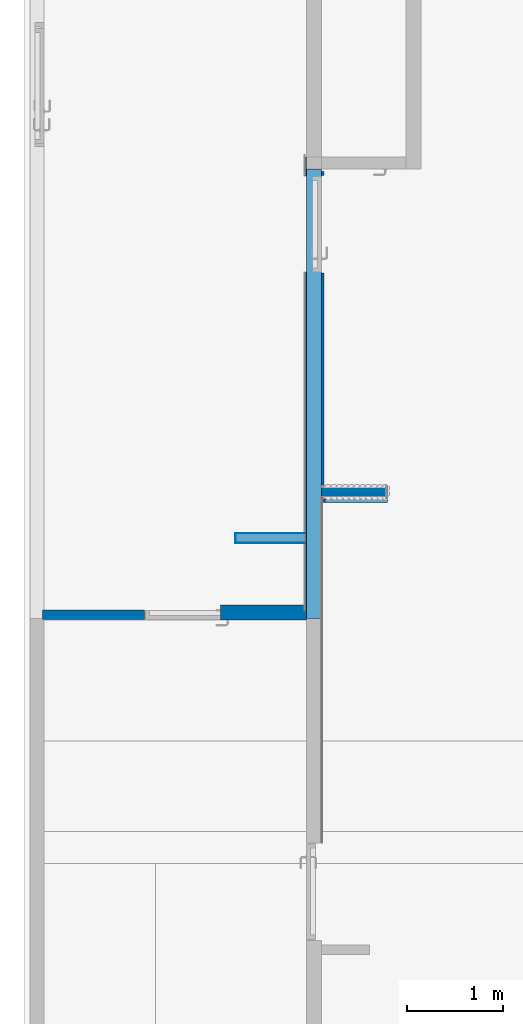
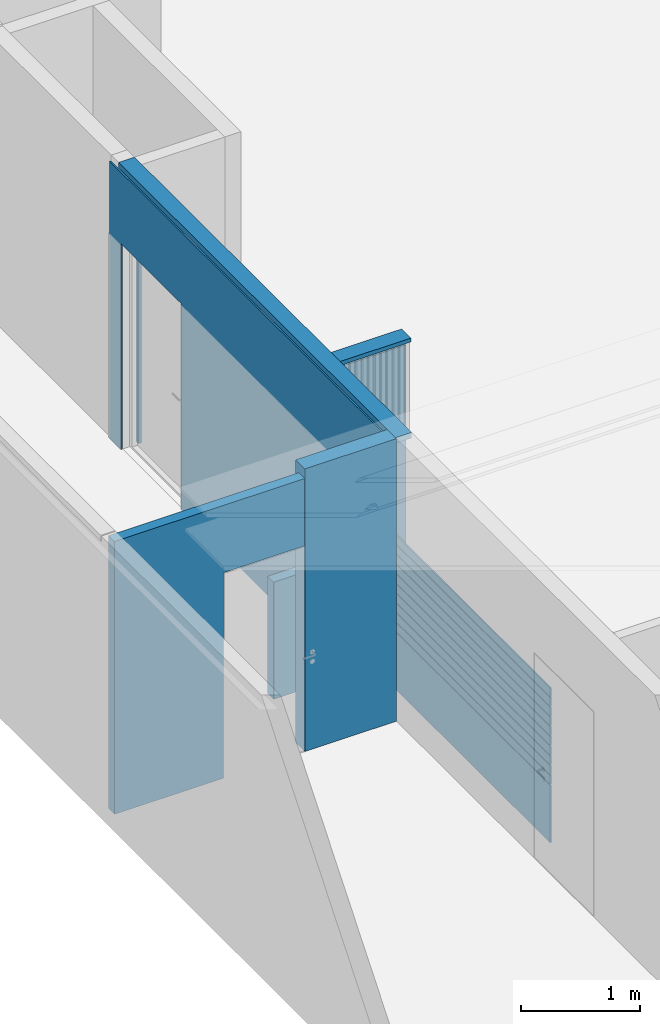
# One storey, part 23 of 37: 12 walls, 4 openings.
"""IFC2X3 building model written with IfcOpenShell, lengths in millimetres."""

from ifc_helpers import new_model, entity, si_unit, converted_unit, derived_unit, direction, frame, frame_2d, origin, origin_with_axes, place, context, subcontext, project, spatial, rectangle, extrude, clip, halfspace, material, layer, layer_set, layer_usage, type_object, element, save


model = new_model("IFC2X3")

# Units and contexts
model_context = context("Model", 3, precision=0.01, world=frame((0.0, 4.29681676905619e-09, 0.0)), true_north=direction((4.01073788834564e-13, 1.0)))
plan_context = context("Plan", 3, precision=0.01, world=frame((0.0, 4.29681676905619e-09, 0.0)), true_north=direction((4.01073788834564e-13, 1.0)))
body_context = subcontext(model_context, "Body", "Model", "MODEL_VIEW")
ifc_project = project(units=[converted_unit("PLANEANGLEUNIT", "DEGREE", entity("IfcPositiveLengthMeasure", 0.0174532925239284), si_unit("PLANEANGLEUNIT", "RADIAN"), dimensions=[0, 0, 0, 0, 0, 0, 0]), si_unit("AREAUNIT", "SQUARE_METRE"), si_unit("LENGTHUNIT", "METRE", prefix="MILLI"), si_unit("MASSUNIT", "GRAM", prefix="KILO"), si_unit("POWERUNIT", "WATT"), si_unit("PRESSUREUNIT", "PASCAL"), si_unit("FORCEUNIT", "NEWTON", prefix="KILO"), si_unit("ELECTRICVOLTAGEUNIT", "VOLT"), si_unit("ELECTRICCURRENTUNIT", "AMPERE"), si_unit("THERMODYNAMICTEMPERATUREUNIT", "DEGREE_CELSIUS"), si_unit("TIMEUNIT", "SECOND"), si_unit("VOLUMEUNIT", "CUBIC_METRE"), derived_unit("LINEARVELOCITYUNIT", [(si_unit("LENGTHUNIT", "METRE"), 1), (si_unit("TIMEUNIT", "SECOND"), -1)]), derived_unit("VOLUMETRICFLOWRATEUNIT", [(si_unit("VOLUMEUNIT", "CUBIC_METRE"), 1), (si_unit("TIMEUNIT", "SECOND"), -1)]), derived_unit("THERMALTRANSMITTANCEUNIT", [(si_unit("POWERUNIT", "WATT"), 1), (si_unit("THERMODYNAMICTEMPERATUREUNIT", "KELVIN"), -1), (si_unit("AREAUNIT", "SQUARE_METRE"), -1)]), derived_unit("SOUNDPRESSUREUNIT", [(si_unit("PRESSUREUNIT", "PASCAL"), 1)])], contexts=[model_context, plan_context])

# Site, building, storey
site_placement = place(None, origin_with_axes())
site = spatial("IfcSite", under=ifc_project, at=site_placement, Name="ENGM", CompositionType="ELEMENT")
building_placement = place(site_placement, origin_with_axes())
building = spatial("IfcBuilding", under=site, at=building_placement, Name="TS", CompositionType="ELEMENT")
storey_placement = place(building_placement, frame((0.0, 0.0, 210900.0), z_axis=(0.0, 0.0, 1.0), x_axis=(1.0, 0.0, 0.0)))
storey = spatial("IfcBuildingStorey", under=building, at=storey_placement, Name="Nivå F", CompositionType="ELEMENT", Elevation=210900.0)

# Wall, opening
ifc_material_1 = material(Name="Plate - Gips")
ifc_layer_1 = layer(ifc_material_1, 12.5)
ifc_material_2 = material(Name="_NSW X-finer")
ifc_layer_2 = layer(ifc_material_2, 15.0)
ifc_material_3 = material(Name="_NSW Stålstender, isolert UTEN SKRAVUR")
ifc_layer_3 = layer(ifc_material_3, 100.0)
ifc_layer_4 = layer(ifc_material_2, 15.0)
ifc_layer_5 = layer(ifc_material_1, 12.5)
ifc_layer_set_1 = layer_set([ifc_layer_1, ifc_layer_2, ifc_layer_3, ifc_layer_4, ifc_layer_5], Name="Basic Wall:A241 - SXVXS-100")
ifc_layer_usage_1 = layer_usage(ifc_layer_set_1, "AXIS2", "NEGATIVE", 77.5)
wall_type_1 = type_object("IfcWallType", Name="Basic Wall:A241 - SXVXS-100", PredefinedType="STANDARD", material=ifc_layer_set_1)
wall_1_placement = place(storey_placement, frame((523534.500000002, 451909.999999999, 0.0), z_axis=(0.0, 0.0, 1.0), x_axis=(1.0, 0.0, 0.0)))
wall_1 = element("IfcWallStandardCase", 1, at=wall_1_placement, inside=storey, type_object=wall_type_1, material=ifc_layer_usage_1, Name="Basic Wall:A241 - SXVXS-100", ObjectType="Basic Wall:A241 - SXVXS-100", context=body_context, shape_type="SweptSolid", body=[
    extrude(rectangle(XDim=685.000000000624, YDim=155.000000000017, at=frame_2d((342.500000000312, 0.0), x_axis=(-1.0, 0.0))), origin(), (0.0, 0.0, 1.0), 2899.99999999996),
])
opening_1_placement = place(wall_1_placement, origin_with_axes())
element("IfcOpeningElement", 2, at=opening_1_placement, cuts=wall_1, Name="Basic Wall:A241 - SXVXS-100", ObjectType="Opening", context=body_context, shape_type="SweptSolid", body=[
    extrude(rectangle(XDim=2760.0, YDim=644.99999999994, at=frame_2d((-3.46744855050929e-11, -6.9292127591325e-11), x_axis=(1.0, 0.0))), frame((362.500000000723, -229.900000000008, 1480.0), z_axis=(0.0, 1.0, 0.0), x_axis=(0.0, 0.0, 1.0)), (0.0, 0.0, 1.0), 459.800000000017),
])

# Walls
ifc_layer_usage_2 = layer_usage(ifc_layer_set_1, "AXIS2", "NEGATIVE", 77.5)
wall_2_placement = place(storey_placement, frame((522489.500000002, 450695.000000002, 0.0), z_axis=(0.0, 0.0, 1.0), x_axis=(1.0, 0.0, 0.0)))
element("IfcWallStandardCase", 3, at=wall_2_placement, inside=storey, type_object=wall_type_1, material=ifc_layer_usage_2, Name="Basic Wall:A241 - SXVXS-100", ObjectType="Basic Wall:A241 - SXVXS-100", context=body_context, shape_type="SweptSolid", body=[
    extrude(rectangle(XDim=889.999999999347, YDim=155.000000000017, at=frame_2d((444.999999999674, 0.0), x_axis=(-1.0, 0.0))), origin(), (0.0, 0.0, 1.0), 2899.99999999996),
])
ifc_layer_usage_3 = layer_usage(ifc_layer_set_1, "AXIS2", "NEGATIVE", 77.5)
wall_3_placement = place(storey_placement, frame((523457.000000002, 450632.558241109, 2843.0), z_axis=(0.0, 0.0, 1.0), x_axis=(0.0, 1.0, 0.0)))
element("IfcWallStandardCase", 4, at=wall_3_placement, inside=storey, type_object=wall_type_1, material=ifc_layer_usage_3, Name="Basic Wall:A241 - SXVXS-100", ObjectType="Basic Wall:A241 - SXVXS-100", context=body_context, shape_type="SweptSolid", body=[
    extrude(rectangle(XDim=4658.28227886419, YDim=155.000000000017, at=frame_2d((2329.14113943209, 0.0), x_axis=(-1.0, 0.0))), origin(), (0.0, 0.0, 1.0), 57.0000000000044),
])

# Wall, opening
ifc_layer_6 = layer(ifc_material_1, 12.5)
ifc_material_4 = material(Name="_NSW Stålstender, uisolert")
ifc_layer_7 = layer(ifc_material_4, 75.0)
ifc_layer_8 = layer(ifc_material_1, 12.5)
ifc_layer_set_2 = layer_set([ifc_layer_6, ifc_layer_7, ifc_layer_8], Name="Basic Wall:A241 - RVR-75.1")
ifc_layer_usage_4 = layer_usage(ifc_layer_set_2, "AXIS2", "NEGATIVE", 50.0)
wall_type_2 = type_object("IfcWallType", Name="Basic Wall:A241 - RVR-75.1", PredefinedType="STANDARD", material=ifc_layer_set_2)
wall_4_placement = place(storey_placement, frame((520643.500000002, 450670.058241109, 0.0), z_axis=(0.0, 0.0, 1.0), x_axis=(1.0, 0.0, 0.0)))
wall_4 = element("IfcWallStandardCase", 5, at=wall_4_placement, inside=storey, type_object=wall_type_2, material=ifc_layer_usage_4, Name="Basic Wall:A241 - RVR-75.1", ObjectType="Basic Wall:A241 - RVR-75.1", context=body_context, shape_type="Clipping", body=[
    clip(extrude(rectangle(XDim=2736.0, YDim=99.9999999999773, at=frame_2d((1368.0, 3.46531692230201e-11), x_axis=(1.0, 0.0))), origin(), (0.0, 0.0, 1.0), 2799.99999999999), halfspace(origin(), True)),
])
opening_2_placement = place(wall_4_placement, frame((2066.0, 50.0, 0.0), z_axis=(0.0, 0.0, 1.0), x_axis=(1.0, 0.0, 0.0)))
element("IfcOpeningElement", 6, at=opening_2_placement, cuts=wall_4, Name="A20 - Slagdør - Enkel:A243 - DI_LTO - 0990 x 2090mm:1", ObjectType="Opening", context=body_context, shape_type="SweptSolid", body=[
    extrude(rectangle(XDim=2109.99999999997, YDim=1010.0, at=frame_2d((1054.99999999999, 505.0), x_axis=(1.0, 0.0))), frame((0.0, 0.0, 0.0), z_axis=(0.0, -1.0, 0.0), x_axis=(0.0, 0.0, 1.0)), (0.0, 0.0, 1.0), 100.0),
])

# Walls
ifc_layer_usage_5 = layer_usage(ifc_layer_set_2, "AXIS2", "NEGATIVE", 50.0)
wall_5_placement = place(storey_placement, frame((522646.770806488, 451464.529120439, 0.0), z_axis=(0.0, 0.0, 1.0), x_axis=(1.0, 0.0, 0.0)))
element("IfcWallStandardCase", 7, at=wall_5_placement, inside=storey, type_object=wall_type_2, material=ifc_layer_usage_5, Name="Basic Wall:A241 - RVR-75.1", ObjectType="Basic Wall:A241 - RVR-75.1", context=body_context, shape_type="SweptSolid", body=[
    extrude(rectangle(XDim=732.729193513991, YDim=99.9999999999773, at=frame_2d((366.364596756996, 3.26458859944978e-11), x_axis=(-1.0, 0.0))), origin(), (0.0, 0.0, 1.0), 1200.0),
])
ifc_layer_9 = layer(ifc_material_1, 12.5)
ifc_layer_10 = layer(ifc_material_4, 75.0)
ifc_layer_11 = layer(ifc_material_1, 12.5)
ifc_layer_set_3 = layer_set([ifc_layer_9, ifc_layer_10, ifc_layer_11], Name="Basic Wall:A241 - RVR-75.2")
ifc_layer_usage_6 = layer_usage(ifc_layer_set_3, "AXIS2", "NEGATIVE", 50.0)
wall_type_3 = type_object("IfcWallType", Name="Basic Wall:A241 - RVR-75.2", PredefinedType="STANDARD", material=ifc_layer_set_3)
wall_6_placement = place(storey_placement, frame((523534.500000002, 451939.919299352, 0.0), z_axis=(0.0, 0.0, 1.0), x_axis=(1.0, 0.0, 0.0)))
element("IfcWallStandardCase", 8, at=wall_6_placement, inside=storey, type_object=wall_type_3, material=ifc_layer_usage_6, Name="Basic Wall:A241 - RVR-75.2", ObjectType="Basic Wall:A241 - RVR-75.2", context=body_context, shape_type="Clipping", body=[
    clip(extrude(rectangle(XDim=673.000000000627, YDim=99.9999999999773, at=frame_2d((336.500000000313, 3.46531692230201e-11), x_axis=(-1.0, 0.0))), origin(), (0.0, 0.0, 1.0), 2799.99999999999), halfspace(origin(), True)),
])

# Wall, opening
ifc_material_5 = material(Name="T2 - Flisvegg Tegl 260x65")
ifc_layer_12 = layer(ifc_material_5, 20.0)
ifc_material_6 = material(Name="T2_Mørtel")
ifc_layer_13 = layer(ifc_material_6, 7.0)
ifc_layer_set_4 = layer_set([ifc_layer_12, ifc_layer_13], Name="Basic Wall:A231 - KL-K04 Tegl Flis 20mm")
ifc_layer_usage_7 = layer_usage(ifc_layer_set_4, "AXIS2", "NEGATIVE", 13.5)
wall_type_4 = type_object("IfcWallType", Name="Basic Wall:A231 - KL-K04 Tegl Flis 20mm", PredefinedType="STANDARD", material=ifc_layer_set_4)
wall_7_placement = place(storey_placement, frame((523548.000000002, 455263.840519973, 0.0), z_axis=(0.0, 0.0, 1.0), x_axis=(0.0, -1.0, 0.0)))
wall_7 = element("IfcWallStandardCase", 9, at=wall_7_placement, inside=storey, type_object=wall_type_4, material=ifc_layer_usage_7, Name="Basic Wall:A231 - KL-K04 Tegl Flis 20mm", ObjectType="Basic Wall:A231 - KL-K04 Tegl Flis 20mm", context=body_context, shape_type="SweptSolid", body=[
    extrude(rectangle(XDim=3273.92122062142, YDim=26.9999999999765, at=frame_2d((1636.96061031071, 3.46522810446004e-11), x_axis=(1.0, 0.0))), origin(), (0.0, 0.0, 1.0), 2240.00000000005),
])
opening_3_placement = place(wall_7_placement, origin_with_axes())
element("IfcOpeningElement", 10, at=opening_3_placement, cuts=wall_7, Name="Basic Wall:A231 - KL-K04 Tegl Flis 20mm", ObjectType="Opening", context=body_context, shape_type="SweptSolid", body=[
    extrude(rectangle(XDim=2109.99999999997, YDim=1010.00000000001, at=frame_2d((0.0, 3.46744855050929e-11), x_axis=(1.0, 0.0))), frame((545.0, -1692.49999999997, 1055.0), z_axis=(0.0, 1.0, 0.0), x_axis=(0.0, 0.0, 1.0)), (0.0, 0.0, 1.0), 3048.0),
])

# Walls
ifc_material_7 = material(Name="T2_baderomspanel")
ifc_layer_14 = layer(ifc_material_7, 2.5)
ifc_layer_set_5 = layer_set([ifc_layer_14], Name="Basic Wall:A231 - KL-K06")
ifc_layer_usage_8 = layer_usage(ifc_layer_set_5, "AXIS2", "NEGATIVE", 1.25)
wall_type_5 = type_object("IfcWallType", Name="Basic Wall:A231 - KL-K06", PredefinedType="STANDARD", material=ifc_layer_set_5)
wall_8_placement = place(storey_placement, frame((523362.000000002, 451515.779120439, 0.0), z_axis=(0.0, 0.0, 1.0), x_axis=(-1.0, 0.0, 0.0)))
element("IfcWallStandardCase", 11, at=wall_8_placement, inside=storey, type_object=wall_type_5, material=ifc_layer_usage_8, Name="Basic Wall:A231 - KL-K06", ObjectType="Basic Wall:A231 - KL-K06", context=body_context, shape_type="SweptSolid", body=[
    extrude(rectangle(XDim=717.729193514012, YDim=2.49999999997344, at=frame_2d((358.864596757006, 0.0), x_axis=(-1.0, 0.0))), origin(), (0.0, 0.0, 1.0), 1200.0),
])
ifc_layer_usage_9 = layer_usage(ifc_layer_set_5, "AXIS2", "NEGATIVE", 1.25)
wall_9_placement = place(storey_placement, frame((522645.520806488, 451514.529120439, 0.0), z_axis=(0.0, 0.0, 1.0), x_axis=(0.0, -1.0, 0.0)))
element("IfcWallStandardCase", 12, at=wall_9_placement, inside=storey, type_object=wall_type_5, material=ifc_layer_usage_9, Name="Basic Wall:A231 - KL-K06", ObjectType="Basic Wall:A231 - KL-K06", context=body_context, shape_type="SweptSolid", body=[
    extrude(rectangle(XDim=102.500000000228, YDim=2.49999999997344, at=frame_2d((51.250000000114, 0.0), x_axis=(-1.0, 0.0))), origin(), (0.0, 0.0, 1.0), 1200.0),
])
ifc_layer_usage_10 = layer_usage(ifc_layer_set_5, "AXIS2", "NEGATIVE", 1.25)
wall_10_placement = place(storey_placement, frame((522646.770806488, 451413.279120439, 0.0), z_axis=(0.0, 0.0, 1.0), x_axis=(1.0, 0.0, 0.0)))
element("IfcWallStandardCase", 13, at=wall_10_placement, inside=storey, type_object=wall_type_5, material=ifc_layer_usage_10, Name="Basic Wall:A231 - KL-K06", ObjectType="Basic Wall:A231 - KL-K06", context=body_context, shape_type="SweptSolid", body=[
    extrude(rectangle(XDim=717.729193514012, YDim=2.49999999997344, at=frame_2d((358.864596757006, 0.0), x_axis=(-1.0, 0.0))), origin(), (0.0, 0.0, 1.0), 1200.0),
])
ifc_material_8 = material(Name="MDF plate grå")
ifc_layer_15 = layer(ifc_material_8, 12.0)
ifc_layer_set_6 = layer_set([ifc_layer_15], Name="Basic Wall:A231 - KL-K08")
wall_type_6 = type_object("IfcWallType", Name="Basic Wall:A231 - KL-K08", PredefinedType="STANDARD", material=ifc_layer_set_6)
wall_11_placement = place(storey_placement, frame((523540.500000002, 448304.500000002, 100.0), z_axis=(0.0, 0.0, 1.0), x_axis=(0.0, 1.0, 0.0)))
element("IfcWall", 14, at=wall_11_placement, inside=storey, type_object=wall_type_6, Name="Basic Wall:A231 - KL-K08", ObjectType="Basic Wall:A231 - KL-K08", context=body_context, shape_type="SweptSolid", body=[
    extrude(rectangle(XDim=11.9999999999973, YDim=3585.41929934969, at=frame_2d((-3.46518369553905e-11, 0.0), x_axis=(1.0, 0.0))), frame((1792.70964967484, 0.0, 0.0), z_axis=(0.0, 0.0, 1.0), x_axis=(0.0, 1.0, 0.0)), (0.0, 0.0, 1.0), 589.999999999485),
    extrude(rectangle(XDim=11.9999999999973, YDim=3585.41929934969, at=frame_2d((-3.46518369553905e-11, 0.0), x_axis=(1.0, 0.0))), frame((1792.70964967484, 0.0, 1500.0), z_axis=(0.0, 0.0, 1.0), x_axis=(0.0, 1.0, 0.0)), (0.0, 0.0, 1.0), 90.0000000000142),
    extrude(rectangle(XDim=11.9999999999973, YDim=3585.41929934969, at=frame_2d((-3.46518369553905e-11, 0.0), x_axis=(1.0, 0.0))), frame((1792.70964967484, 0.0, 600.0), z_axis=(0.0, 0.0, 1.0), x_axis=(0.0, 1.0, 0.0)), (0.0, 0.0, 1.0), 90.0000000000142),
    extrude(rectangle(XDim=11.9999999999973, YDim=3585.41929934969, at=frame_2d((-3.46518369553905e-11, 0.0), x_axis=(1.0, 0.0))), frame((1792.70964967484, 0.0, 700.0), z_axis=(0.0, 0.0, 1.0), x_axis=(0.0, 1.0, 0.0)), (0.0, 0.0, 1.0), 89.9999999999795),
    extrude(rectangle(XDim=11.9999999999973, YDim=3585.41929934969, at=frame_2d((-3.46518369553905e-11, 0.0), x_axis=(1.0, 0.0))), frame((1792.70964967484, 0.0, 800.0), z_axis=(0.0, 0.0, 1.0), x_axis=(0.0, 1.0, 0.0)), (0.0, 0.0, 1.0), 90.0000000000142),
    extrude(rectangle(XDim=11.9999999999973, YDim=3585.41929934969, at=frame_2d((-3.46518369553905e-11, 0.0), x_axis=(1.0, 0.0))), frame((1792.70964967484, 0.0, 900.0), z_axis=(0.0, 0.0, 1.0), x_axis=(0.0, 1.0, 0.0)), (0.0, 0.0, 1.0), 90.0000000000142),
    extrude(rectangle(XDim=11.9999999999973, YDim=3585.41929934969, at=frame_2d((-3.46518369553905e-11, 0.0), x_axis=(1.0, 0.0))), frame((1792.70964967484, 0.0, 1000.0), z_axis=(0.0, 0.0, 1.0), x_axis=(0.0, 1.0, 0.0)), (0.0, 0.0, 1.0), 89.9999999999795),
    extrude(rectangle(XDim=11.9999999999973, YDim=3585.41929934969, at=frame_2d((-3.46518369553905e-11, 0.0), x_axis=(1.0, 0.0))), frame((1792.70964967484, 0.0, 1100.0), z_axis=(0.0, 0.0, 1.0), x_axis=(0.0, 1.0, 0.0)), (0.0, 0.0, 1.0), 90.0000000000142),
    extrude(rectangle(XDim=11.9999999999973, YDim=3585.41929934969, at=frame_2d((-3.46518369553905e-11, 0.0), x_axis=(1.0, 0.0))), frame((1792.70964967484, 0.0, 1200.0), z_axis=(0.0, 0.0, 1.0), x_axis=(0.0, 1.0, 0.0)), (0.0, 0.0, 1.0), 90.0000000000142),
    extrude(rectangle(XDim=11.9999999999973, YDim=3585.41929934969, at=frame_2d((-3.46518369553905e-11, 0.0), x_axis=(1.0, 0.0))), frame((1792.70964967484, 0.0, 1300.0), z_axis=(0.0, 0.0, 1.0), x_axis=(0.0, 1.0, 0.0)), (0.0, 0.0, 1.0), 89.9999999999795),
    extrude(rectangle(XDim=11.9999999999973, YDim=3585.41929934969, at=frame_2d((-3.46518369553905e-11, 0.0), x_axis=(1.0, 0.0))), frame((1792.70964967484, 0.0, 1400.0), z_axis=(0.0, 0.0, 1.0), x_axis=(0.0, 1.0, 0.0)), (0.0, 0.0, 1.0), 90.0000000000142),
])

# Wall, opening
ifc_material_9 = material(Name="T2_Gips Protect F")
ifc_layer_16 = layer(ifc_material_9, 15.0)
ifc_layer_set_7 = layer_set([ifc_layer_16], Name="Basic Wall:A200 - Branngips 15 mm")
ifc_layer_usage_11 = layer_usage(ifc_layer_set_7, "AXIS2", "NEGATIVE", 7.5)
wall_type_7 = type_object("IfcWallType", Name="Basic Wall:A200 - Branngips 15 mm", PredefinedType="STANDARD", material=ifc_layer_set_7)
wall_12_placement = place(storey_placement, frame((523372.110632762, 450720.058241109, 0.0), z_axis=(0.0, 0.0, 1.0), x_axis=(0.0, 1.0, 0.0)))
wall_12 = element("IfcWallStandardCase", 15, at=wall_12_placement, inside=storey, type_object=wall_type_7, material=ifc_layer_usage_11, Name="Basic Wall:A200 - Branngips 15 mm", ObjectType="Basic Wall:A200 - Branngips 15 mm", context=body_context, shape_type="SweptSolid", body=[
    extrude(rectangle(XDim=4694.78227886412, YDim=14.9999999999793, at=frame_2d((2347.39113943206, 0.0), x_axis=(1.0, 0.0))), origin(), (0.0, 0.0, 1.0), 2842.00000000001),
])
opening_4_placement = place(wall_12_placement, origin_with_axes())
element("IfcOpeningElement", 16, at=opening_4_placement, cuts=wall_12, Name="Basic Wall:A200 - Branngips 15 mm", ObjectType="Opening", context=body_context, shape_type="SweptSolid", body=[
    extrude(rectangle(XDim=2109.99999999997, YDim=1009.99999999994, at=frame_2d((0.0, 0.0), x_axis=(0.0, 1.0))), frame((3998.78227886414, -1531.38936723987, 1055.0), z_axis=(0.0, 1.0, 0.0), x_axis=(-1.0, 0.0, 0.0)), (0.0, 0.0, 1.0), 3048.0),
])

save(model, "model.ifc")
